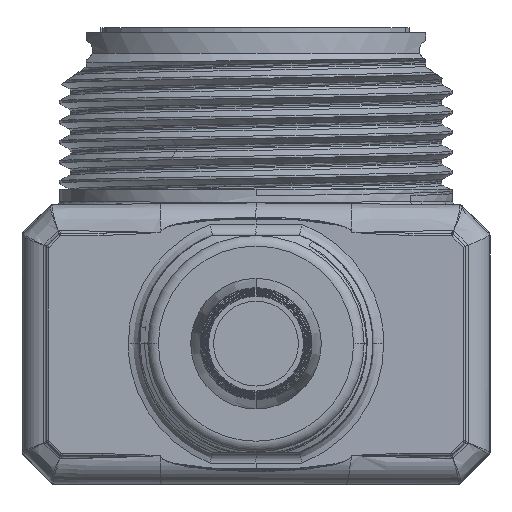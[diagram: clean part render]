
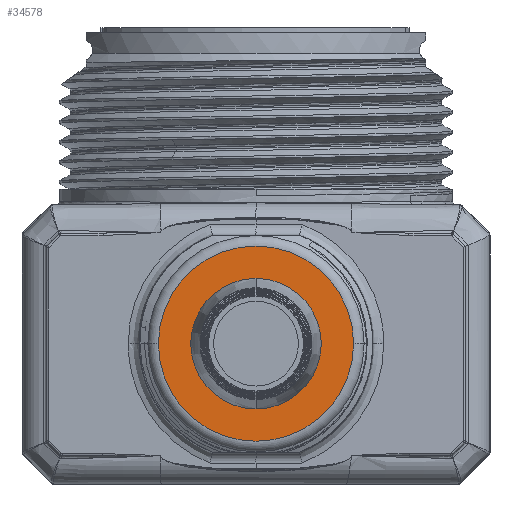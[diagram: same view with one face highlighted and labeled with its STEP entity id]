
A CAD part, front view. The second image highlights one B-rep face of the part: STEP entity #34578.
In plain terms, the highlighted planar face has unit normal (0, -1, 0).
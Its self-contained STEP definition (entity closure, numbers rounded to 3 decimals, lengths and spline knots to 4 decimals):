
#6314=CARTESIAN_POINT('',(0.,-1.586,-0.415));
#6315=DIRECTION('',(0.,1.,0.));
#6316=DIRECTION('',(1.,0.,0.));
#6317=AXIS2_PLACEMENT_3D('',#6314,#6315,#6316);
#6328=CARTESIAN_POINT('',(0.,-1.586,-0.415));
#6329=DIRECTION('',(0.,-1.,0.));
#6330=DIRECTION('',(1.,0.,0.));
#6331=AXIS2_PLACEMENT_3D('',#6328,#6329,#6330);
#6333=CARTESIAN_POINT('',(0.,-1.586,-0.415));
#6334=DIRECTION('',(0.,-1.,0.));
#6335=DIRECTION('',(-1.,0.,0.));
#6336=AXIS2_PLACEMENT_3D('',#6333,#6334,#6335);
#6338=CARTESIAN_POINT('',(0.,-1.586,-0.415));
#6339=DIRECTION('',(0.,1.,0.));
#6340=DIRECTION('',(-1.,0.,0.));
#6341=AXIS2_PLACEMENT_3D('',#6338,#6339,#6340);
#24959=CARTESIAN_POINT('',(0.2878,-1.586,-0.415));
#24960=CARTESIAN_POINT('',(-0.2878,-1.586,-0.415));
#24961=VERTEX_POINT('',#24959);
#24962=VERTEX_POINT('',#24960);
#26052=CARTESIAN_POINT('',(0.1725,-1.586,-0.415));
#26053=CARTESIAN_POINT('',(-0.1725,-1.586,-0.415));
#26054=VERTEX_POINT('',#26052);
#26055=VERTEX_POINT('',#26053);
#34562=CARTESIAN_POINT('',(0.69,-1.586,0.));
#34563=DIRECTION('',(0.,1.,0.));
#34564=DIRECTION('',(1.,0.,0.));
#34565=AXIS2_PLACEMENT_3D('',#34562,#34563,#34564);
#34566=PLANE('',#34565);
#34568=ORIENTED_EDGE('',*,*,#34567,.F.);
#34570=ORIENTED_EDGE('',*,*,#34569,.F.);
#34571=EDGE_LOOP('',(#34568,#34570));
#34572=FACE_OUTER_BOUND('',#34571,.F.);
#34573=ORIENTED_EDGE('',*,*,#34552,.F.);
#34575=ORIENTED_EDGE('',*,*,#34574,.F.);
#34576=EDGE_LOOP('',(#34573,#34575));
#34577=FACE_BOUND('',#34576,.F.);
#34578=ADVANCED_FACE('',(#34572,#34577),#34566,.F.);
#6318=CIRCLE('',#6317,0.1725);
#6332=CIRCLE('',#6331,0.2878);
#6337=CIRCLE('',#6336,0.2878);
#6342=CIRCLE('',#6341,0.1725);
#34552=EDGE_CURVE('',#26054,#26055,#6318,.T.);
#34567=EDGE_CURVE('',#24961,#24962,#6332,.T.);
#34569=EDGE_CURVE('',#24962,#24961,#6337,.T.);
#34574=EDGE_CURVE('',#26055,#26054,#6342,.T.);
